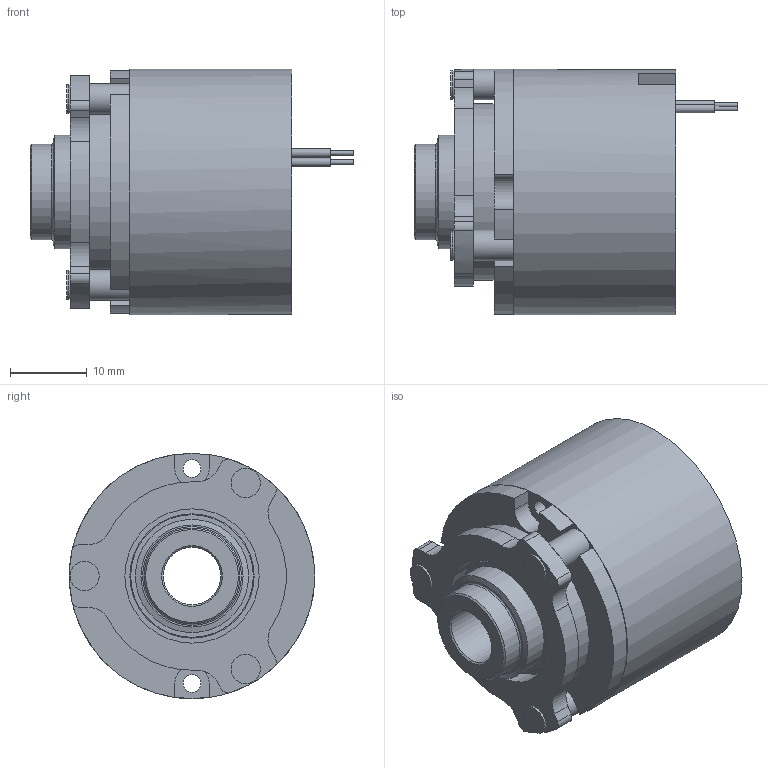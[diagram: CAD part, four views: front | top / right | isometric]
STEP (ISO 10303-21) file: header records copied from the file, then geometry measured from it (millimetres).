
FILE_DESCRIPTION (( 'STEP AP214' ), '1' );
FILE_NAME ('KS_10003A00-0001_Idx_d.STEP', '2022-07-08T06:10:29', ( '' ), ( '' ), 'SwSTEP 2.0', 'SolidWorks 2018', '' );
FILE_SCHEMA (( 'AUTOMOTIVE_DESIGN' ));
Length unit declared in the file: millimetre
Products named in the file (1): KS_10003A00-0001_Idx_d
Bounding box: 42.18 x 32 x 32 mm (x, y, z)
Volume: 20009.9 mm3; surface area: 8051.8 mm2
Topology: 2 solids, 2 shells, 103 faces, 245 edges, 162 vertices
Faces by surface type: cylinder 53, plane 39, cone 9, torus 2
Full cylindrical faces by diameter (mm): 0.6 x2, 1.1 x2, 2.05 x2, 2.3 x2, 3.8 x3, 4 x3, 7.5 x1, 8.2 x2, 12.5 x1, 14 x1, 14.762 x1, 16 x1, 17.5 x1, 23 x1, 32 x1
Entity records: 2847 total; most frequent: DIRECTION 524, CARTESIAN_POINT 456, ORIENTED_EDGE 400, AXIS2_PLACEMENT_3D 220, EDGE_CURVE 200, EDGE_LOOP 166, VERTEX_POINT 152, FACE_OUTER_BOUND 129
